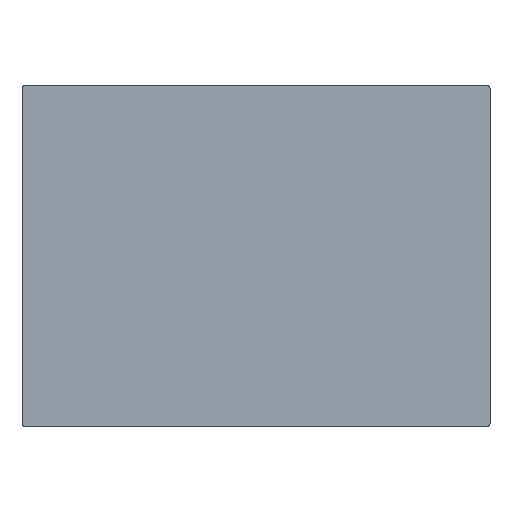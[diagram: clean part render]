
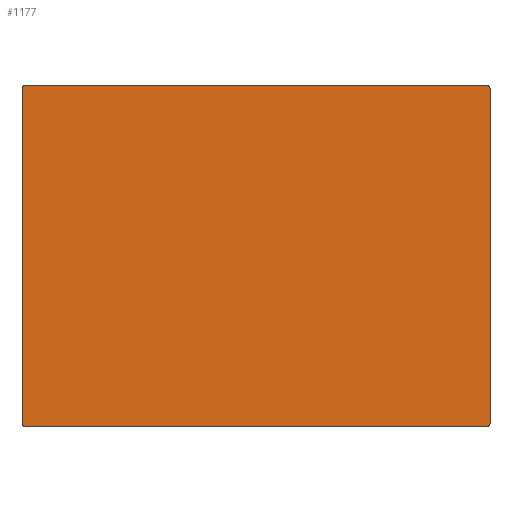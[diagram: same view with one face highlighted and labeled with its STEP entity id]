
A CAD part, top view. The second image highlights one B-rep face of the part: STEP entity #1177.
In plain terms, the highlighted planar face has unit normal (0, 0, 1).
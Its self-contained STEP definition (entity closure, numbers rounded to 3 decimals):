
#917=AXIS2_PLACEMENT_3D('Circle Axis2P3D',#915,#916,$) ;
#988=AXIS2_PLACEMENT_3D('Circle Axis2P3D',#986,#987,$) ;
#1050=AXIS2_PLACEMENT_3D('Circle Axis2P3D',#1048,#1049,$) ;
#1160=AXIS2_PLACEMENT_3D('Plane Axis2P3D',#1157,#1158,#1159) ;
#1164=AXIS2_PLACEMENT_3D('Circle Axis2P3D',#1162,#1163,$) ;
#915=CARTESIAN_POINT('Axis2P3D Location',(-2.5,186.5,4.)) ;
#919=CARTESIAN_POINT('Vertex',(-2.5,189.,4.)) ;
#921=CARTESIAN_POINT('Vertex',(0.,186.5,4.)) ;
#961=CARTESIAN_POINT('Vertex',(0.,-186.5,4.)) ;
#969=CARTESIAN_POINT('Line Origine',(0.,0.,4.)) ;
#986=CARTESIAN_POINT('Axis2P3D Location',(-2.5,-186.5,4.)) ;
#990=CARTESIAN_POINT('Vertex',(-2.5,-189.,4.)) ;
#1017=CARTESIAN_POINT('Line Origine',(-260.,189.,4.)) ;
#1021=CARTESIAN_POINT('Vertex',(-517.5,189.,4.)) ;
#1048=CARTESIAN_POINT('Axis2P3D Location',(-517.5,186.5,4.)) ;
#1052=CARTESIAN_POINT('Vertex',(-520.,186.5,4.)) ;
#1086=CARTESIAN_POINT('Line Origine',(-260.,-189.,4.)) ;
#1090=CARTESIAN_POINT('Vertex',(-517.5,-189.,4.)) ;
#1116=CARTESIAN_POINT('Vertex',(-520.,-186.5,4.)) ;
#1119=CARTESIAN_POINT('Line Origine',(-520.,0.,4.)) ;
#1157=CARTESIAN_POINT('Axis2P3D Location',(-260.,0.,4.)) ;
#1162=CARTESIAN_POINT('Axis2P3D Location',(-517.5,-186.5,4.)) ;
#916=DIRECTION('Axis2P3D Direction',(0.,-0.,1.)) ;
#970=DIRECTION('Vector Direction',(0.,-1.,0.)) ;
#987=DIRECTION('Axis2P3D Direction',(0.,0.,1.)) ;
#1018=DIRECTION('Vector Direction',(-1.,0.,0.)) ;
#1049=DIRECTION('Axis2P3D Direction',(0.,0.,1.)) ;
#1087=DIRECTION('Vector Direction',(1.,0.,0.)) ;
#1120=DIRECTION('Vector Direction',(0.,1.,0.)) ;
#1158=DIRECTION('Axis2P3D Direction',(0.,0.,1.)) ;
#1159=DIRECTION('Axis2P3D XDirection',(-0.,1.,-0.)) ;
#1163=DIRECTION('Axis2P3D Direction',(0.,0.,1.)) ;
#971=VECTOR('Line Direction',#970,1.) ;
#1019=VECTOR('Line Direction',#1018,1.) ;
#1088=VECTOR('Line Direction',#1087,1.) ;
#1121=VECTOR('Line Direction',#1120,1.) ;
#1168=ORIENTED_EDGE('',*,*,#1092,.T.) ;
#1169=ORIENTED_EDGE('',*,*,#992,.F.) ;
#1170=ORIENTED_EDGE('',*,*,#973,.T.) ;
#1171=ORIENTED_EDGE('',*,*,#923,.F.) ;
#1172=ORIENTED_EDGE('',*,*,#1023,.T.) ;
#1173=ORIENTED_EDGE('',*,*,#1054,.F.) ;
#1174=ORIENTED_EDGE('',*,*,#1123,.T.) ;
#1175=ORIENTED_EDGE('',*,*,#1166,.F.) ;
#1177=ADVANCED_FACE('Blende',(#1176),#1161,.T.) ;
#918=CIRCLE('generated circle',#917,2.5) ;
#989=CIRCLE('generated circle',#988,2.5) ;
#1051=CIRCLE('generated circle',#1050,2.5) ;
#1165=CIRCLE('generated circle',#1164,2.5) ;
#923=EDGE_CURVE('',#920,#922,#918,.F.) ;
#973=EDGE_CURVE('',#962,#922,#972,.F.) ;
#992=EDGE_CURVE('',#962,#991,#989,.F.) ;
#1023=EDGE_CURVE('',#920,#1022,#1020,.T.) ;
#1054=EDGE_CURVE('',#1053,#1022,#1051,.F.) ;
#1092=EDGE_CURVE('',#1091,#991,#1089,.T.) ;
#1123=EDGE_CURVE('',#1053,#1117,#1122,.F.) ;
#1166=EDGE_CURVE('',#1091,#1117,#1165,.F.) ;
#1167=EDGE_LOOP('',(#1168,#1169,#1170,#1171,#1172,#1173,#1174,#1175)) ;
#1176=FACE_OUTER_BOUND('',#1167,.T.) ;
#972=LINE('Line',#969,#971) ;
#1020=LINE('Line',#1017,#1019) ;
#1089=LINE('Line',#1086,#1088) ;
#1122=LINE('Line',#1119,#1121) ;
#1161=PLANE('',#1160) ;
#920=VERTEX_POINT('',#919) ;
#922=VERTEX_POINT('',#921) ;
#962=VERTEX_POINT('',#961) ;
#991=VERTEX_POINT('',#990) ;
#1022=VERTEX_POINT('',#1021) ;
#1053=VERTEX_POINT('',#1052) ;
#1091=VERTEX_POINT('',#1090) ;
#1117=VERTEX_POINT('',#1116) ;
